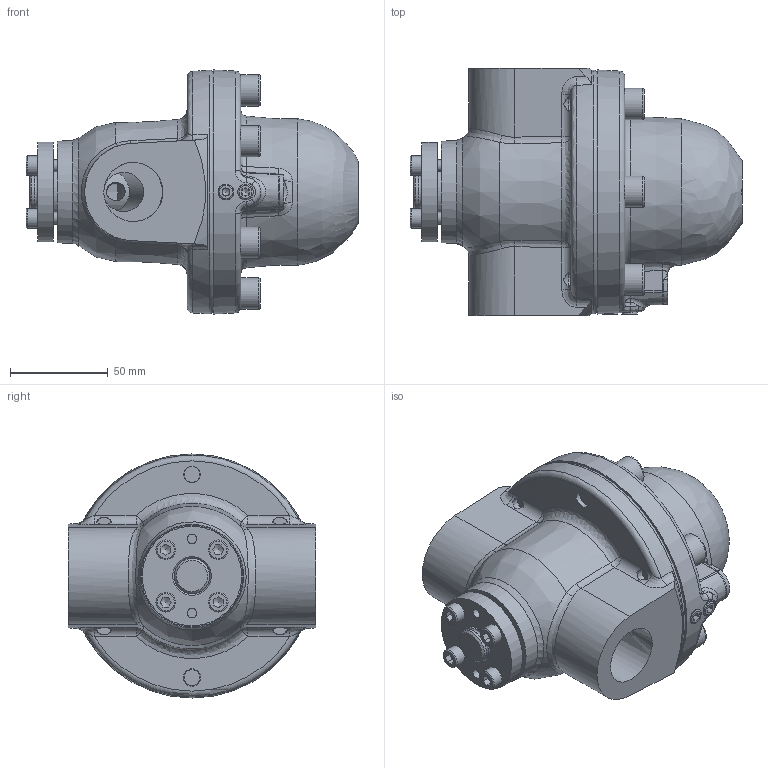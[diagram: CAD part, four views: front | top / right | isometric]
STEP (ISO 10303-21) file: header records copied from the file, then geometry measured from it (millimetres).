
FILE_DESCRIPTION((''),'2;1');
FILE_NAME('F:\AirCom-Produktdokumentation\Volumenstrombooster\RLM\CAD\CAD AirCom\3D\B-RLM-08J2.stp','2008-10-14T16:48:44',('Frank Schroers'),(''),'Autodesk Inventor 2008','Autodesk Inventor 2008','');
FILE_SCHEMA(('AUTOMOTIVE_DESIGN { 1 0 10303 214 1 1 1 1 }'));
Length unit declared in the file: millimetre
Products named in the file (17): B-RLM-08J1; 3701000 LTD 11; 3701000 LTD 12; 3701000 LTD 13; 3701000 LTD 14; 3701000 LTD 15; 3701000 LTD 16; 3701000 LTD 17; 3701000 LTD 18; 3701000 LTD 19; 3701000 LTD 110; 3701000 LTD 111; 3701000 LTD 112; 3701000 LTD 113; 3701000 LTD 114; 3701000 LTD 115; 3701000 LTD 116
Assembly tree (16 placements, depth 2):
  B-RLM-08J1
    3701000 LTD 11
    3701000 LTD 12
    3701000 LTD 13
    3701000 LTD 14
    3701000 LTD 15
    3701000 LTD 16
    3701000 LTD 17
    3701000 LTD 18
    3701000 LTD 19
    3701000 LTD 110
    3701000 LTD 111
    3701000 LTD 112
    3701000 LTD 113
    3701000 LTD 114
    3701000 LTD 115
    3701000 LTD 116
Bounding box: 170 x 126.5 x 125 mm (x, y, z)
Volume: 652681.1 mm3; surface area: 149654.8 mm2
Topology: 16 solids, 16 shells, 506 faces, 1180 edges, 744 vertices
Faces by surface type: plane 227, cylinder 107, bspline 104, cone 49, torus 16, sphere 3
Full cylindrical faces by diameter (mm): 1.315 x1, 2 x3, 3 x2, 3.06 x1, 4 x2, 5.5 x2, 6 x6, 6.3 x1, 6.6 x4, 8 x4, 9.5 x4, 10 x10, 11 x6, 12.7 x2, 15.5 x1, 15.85 x1, 16 x6, 18 x2, 18.5 x1, 19.3 x1, 20 x1, 22 x1, 22.2 x2, 25.3 x1, 25.65 x1, 28.55 x2, 28.6 x2, 45 x1, 51 x1, 53 x1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
Entity records: 18761 total; most frequent: CARTESIAN_POINT 8383, DIRECTION 1965, ORIENTED_EDGE 1836, EDGE_CURVE 918, AXIS2_PLACEMENT_3D 808, EDGE_LOOP 795, VERTEX_POINT 669, FACE_OUTER_BOUND 506
